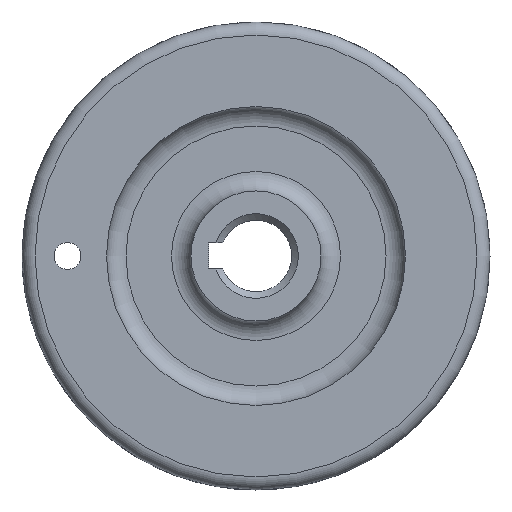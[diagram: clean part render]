
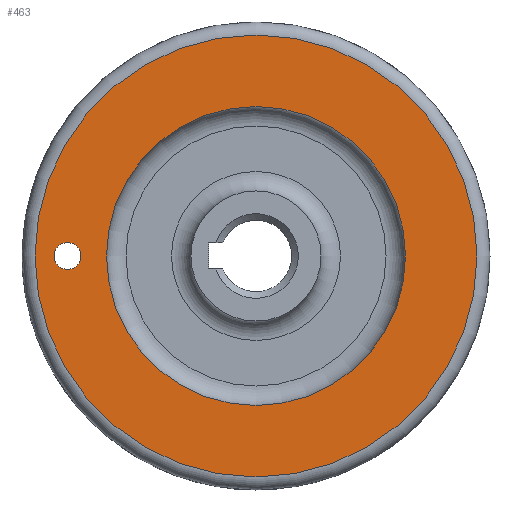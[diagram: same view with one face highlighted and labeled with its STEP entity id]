
A CAD part, left-side view. The second image highlights one B-rep face of the part: STEP entity #463.
In plain terms, the highlighted planar face has unit normal (-1, 0, 0).
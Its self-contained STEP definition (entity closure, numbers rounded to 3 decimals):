
#418=CARTESIAN_POINT('',(0.,34.0,0.0));
#419=VERTEX_POINT('',#418);
#420=CARTESIAN_POINT('',(0.,0.0,0.0));
#421=DIRECTION('',(1.0,0.0,0.0));
#422=DIRECTION('',(0.0,-1.0,0.0));
#423=AXIS2_PLACEMENT_3D('',#420,#421,#422);
#424=CIRCLE('',#423,34.0);
#425=EDGE_CURVE('',#419,#419,#424,.T.);
#433=CARTESIAN_POINT('',(0.,23.75,0.0));
#434=DIRECTION('',(-1.0,0.0,0.0));
#435=DIRECTION('',(0.0,0.0,1.0));
#436=AXIS2_PLACEMENT_3D('',#433,#434,#435);
#437=PLANE('',#436);
#438=ORIENTED_EDGE('',*,*,#425,.F.);
#439=EDGE_LOOP('',(#438));
#440=FACE_OUTER_BOUND('',#439,.T.);
#441=CARTESIAN_POINT('',(0.,23.,0.0));
#442=VERTEX_POINT('',#441);
#443=CARTESIAN_POINT('',(0.,0.0,0.0));
#444=DIRECTION('',(1.0,0.0,0.0));
#445=DIRECTION('',(0.0,1.0,0.0));
#446=AXIS2_PLACEMENT_3D('',#443,#444,#445);
#447=CIRCLE('',#446,23.);
#448=EDGE_CURVE('',#442,#442,#447,.T.);
#449=ORIENTED_EDGE('',*,*,#448,.T.);
#450=EDGE_LOOP('',(#449));
#451=FACE_BOUND('',#450,.T.);
#452=CARTESIAN_POINT('',(0.,29.,2.067));
#453=VERTEX_POINT('',#452);
#454=CARTESIAN_POINT('',(0.,29.,0.0));
#455=DIRECTION('',(1.0,0.0,0.0));
#456=DIRECTION('',(0.0,0.0,-1.0));
#457=AXIS2_PLACEMENT_3D('',#454,#455,#456);
#458=CIRCLE('',#457,2.067);
#459=EDGE_CURVE('',#453,#453,#458,.T.);
#460=ORIENTED_EDGE('',*,*,#459,.T.);
#461=EDGE_LOOP('',(#460));
#462=FACE_BOUND('',#461,.T.);
#463=ADVANCED_FACE('',(#440,#451,#462),#437,.T.);
